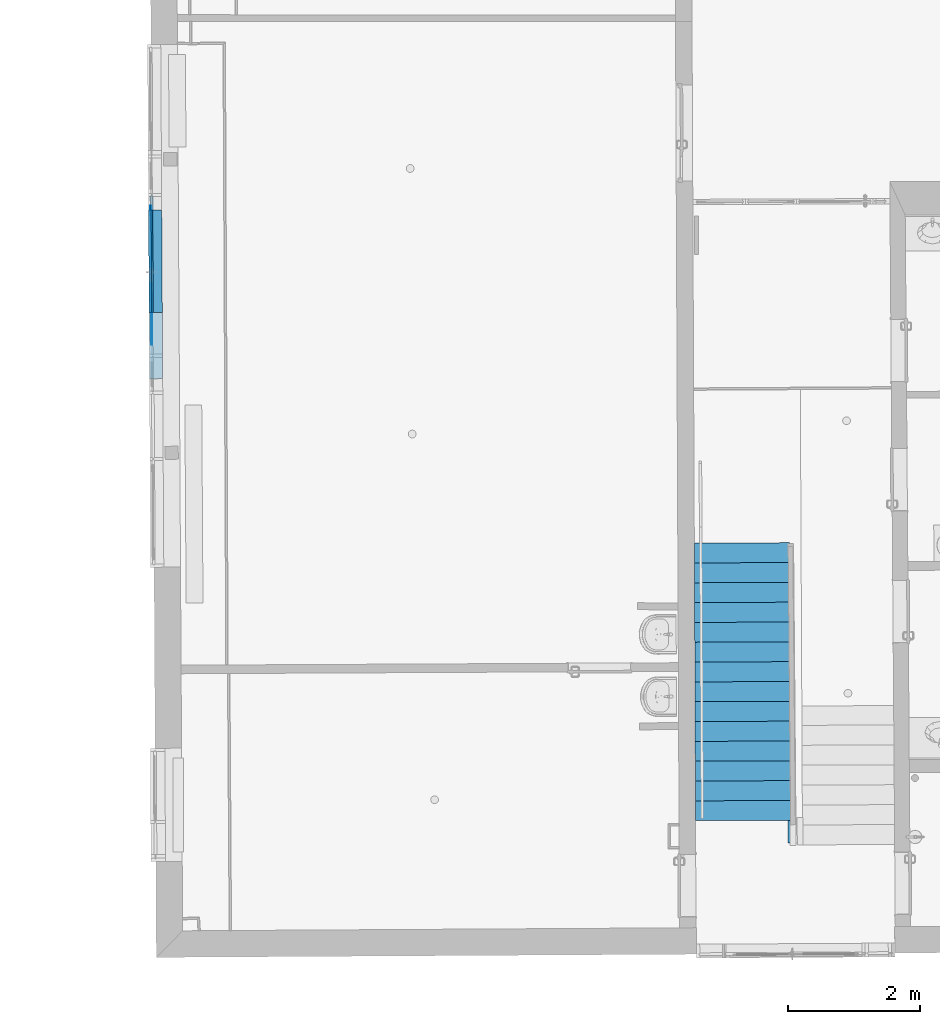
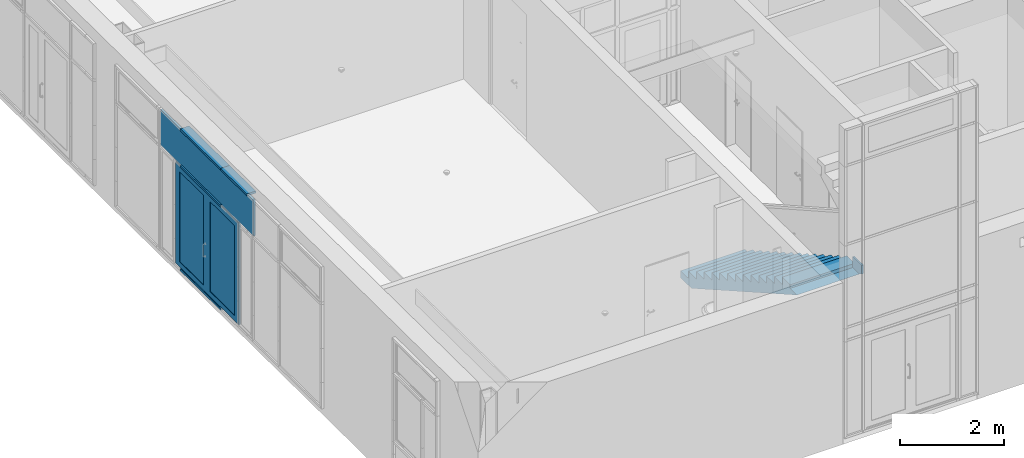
# One storey, part 122 of 196: 8 building element parts, 2 elements without a shape of their own.
"""IFC2X3 building model written with IfcOpenShell, lengths in metres."""

from ifc_helpers import new_model, entity, si_unit, converted_unit, derived_unit, money_unit, direction, frame, origin_with_axes, place, context, subcontext, project, spatial, faceted_brep, material, type_object, element, aggregate, save


model = new_model("IFC2X3")

# Units and contexts
model_context = context("Model", 3, precision=1e-05, world=origin_with_axes(), true_north=direction((0.0, 1.0)))
body_context = subcontext(model_context, "Body", "Model", "MODEL_VIEW")
ifc_project = project(units=[si_unit("LENGTHUNIT", "METRE"), si_unit("AREAUNIT", "SQUARE_METRE"), si_unit("VOLUMEUNIT", "CUBIC_METRE"), converted_unit("PLANEANGLEUNIT", "DEGREE", entity("IfcPlaneAngleMeasure", 0.0174532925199), si_unit("PLANEANGLEUNIT", "RADIAN"), dimensions=[0, 0, 0, 0, 0, 0, 0]), money_unit("EUR"), converted_unit("TIMEUNIT", "Year", entity("IfcTimeMeasure", 31556926.0), si_unit("TIMEUNIT", "SECOND"), dimensions=[0, 0, 1, 0, 0, 0, 0]), si_unit("MASSUNIT", "GRAM", prefix="KILO"), si_unit("THERMODYNAMICTEMPERATUREUNIT", "DEGREE_CELSIUS"), si_unit("LUMINOUSINTENSITYUNIT", "LUMEN"), si_unit("ENERGYUNIT", "JOULE", prefix="MEGA"), derived_unit("THERMALCONDUCTANCEUNIT", [(si_unit("POWERUNIT", "WATT"), 1), (si_unit("LENGTHUNIT", "METRE"), -1), (si_unit("THERMODYNAMICTEMPERATUREUNIT", "KELVIN"), -1)]), derived_unit("SPECIFICHEATCAPACITYUNIT", [(si_unit("ENERGYUNIT", "JOULE"), 1), (si_unit("MASSUNIT", "GRAM", prefix="KILO"), -1), (si_unit("THERMODYNAMICTEMPERATUREUNIT", "KELVIN"), -1)]), derived_unit("MASSDENSITYUNIT", [(si_unit("MASSUNIT", "GRAM", prefix="KILO"), 1), (si_unit("VOLUMEUNIT", "CUBIC_METRE"), -1)])], contexts=[model_context])

# Site, building, storey
site_placement = place(None, origin_with_axes())
site = spatial("IfcSite", under=ifc_project, at=site_placement, Name="Gelände", CompositionType="ELEMENT")
building_placement = place(site_placement, origin_with_axes())
building = spatial("IfcBuilding", under=site, at=building_placement, Name="Gebäude", CompositionType="ELEMENT")
storey_placement = place(building_placement, frame((0.0, 0.0, -3.0), z_axis=(0.0, 0.0, 1.0), x_axis=(1.0, 0.0, 0.0)))
storey = spatial("IfcBuildingStorey", under=building, at=storey_placement, Name="KELLERGESCHOSS", CompositionType="ELEMENT", Elevation=-3.0)

# Proxy, building element parts
building_element_proxy_type = type_object("IfcBuildingElementProxyType", Name="Fassadentyp", PredefinedType="NOTDEFINED")
proxy_placement = place(storey_placement, frame((-34.8766751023, 40.9954775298, 0.421025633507), z_axis=(0.0, 0.0, 1.0), x_axis=(1.0, 0.0, 0.0)))
proxy = element("IfcBuildingElementProxy", 1, at=proxy_placement, inside=storey, type_object=building_element_proxy_type, Name="Fassade-002")
ifc_material_1 = material(Name="45_Glas, Normalglas")
building_element_part_1_placement = place(proxy_placement, origin_with_axes())
building_element_part_1 = element("IfcBuildingElementPart", 2, at=building_element_part_1_placement, material=ifc_material_1, Name="45_Glas, Normalglas", context=body_context, shape_type="Brep", body=[
    faceted_brep([(0.0294276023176, -1.60742495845, 3.31499988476), (0.0282410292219, -1.40510450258, 3.31499988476), (-0.0117582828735, -1.40533909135, 3.31499988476), (-0.0105717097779, -1.60765954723, 3.31499988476), (0.0294276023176, -1.60742495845, 2.51999995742), (0.0294276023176, -1.60742495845, 2.46764333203), (0.0282410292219, -1.40510450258, 2.46764333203), (0.0261988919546, -1.0569033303, 2.46764333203), (0.0223763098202, -0.405121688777, 2.46764333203), (0.0132859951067, 1.14485161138, 2.46764333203), (0.0119435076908, 1.3737567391, 2.46764333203), (0.00858776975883, 1.94593761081, 2.46764333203), (0.00858776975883, 1.94593761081, 2.51999995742), (0.00858776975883, 1.94593761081, 3.31499988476), (0.0132859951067, 1.14485161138, 3.31499988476), (0.0223763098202, -0.405121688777, 3.31499988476), (-0.0176230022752, -0.40535627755, 3.31499988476), (-0.0267133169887, 1.14461702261, 3.31499988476), (-0.0314115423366, 1.94570302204, 3.31499988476), (-0.0314115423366, 1.94570302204, 2.51999995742), (-0.0314115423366, 1.94570302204, 2.46764333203), (-0.0280558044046, 1.37352215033, 2.46764333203), (-0.0267133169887, 1.14461702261, 2.46764333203), (-0.0176230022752, -0.40535627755, 2.46764333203), (-0.0138004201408, -1.05713791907, 2.46764333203), (-0.0117582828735, -1.40533909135, 2.46764333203), (-0.0105717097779, -1.60765954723, 2.46764333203), (-0.0105717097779, -1.60765954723, 2.51999995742)], [[[0, 1, 2, 3]], [[0, 4, 5, 6, 7, 8, 9, 10, 11, 12, 13, 14, 15, 1]], [[1, 15, 16, 2]], [[3, 2, 16, 17, 18, 19, 20, 21, 22, 23, 24, 25, 26, 27]], [[4, 0, 3, 27]], [[5, 4, 27, 26]], [[6, 5, 26, 25]], [[7, 6, 25, 24]], [[8, 7, 24, 23]], [[9, 8, 23, 22]], [[10, 9, 22, 21]], [[11, 10, 21, 20]], [[12, 11, 20, 19]], [[13, 12, 19, 18]], [[14, 13, 18, 17]], [[15, 14, 17, 16]]]),
])
ifc_material_2 = material(Name="53_Metall, Aluminium")
building_element_part_2_placement = place(proxy_placement, origin_with_axes())
building_element_part_2 = element("IfcBuildingElementPart", 3, at=building_element_part_2_placement, material=ifc_material_2, Name="53_Metall, Aluminium", context=body_context, shape_type="Brep", body=[
    faceted_brep([(0.0310521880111, -1.0318744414, 0.0499999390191), (0.0310521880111, -1.0318744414, 2.43264333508), (0.0260522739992, -1.031903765, 2.43264333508), (0.0260522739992, -1.031903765, 0.0499999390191), (0.030788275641, -0.986875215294, 0.0499999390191), (0.030788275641, -0.986875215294, 2.38764333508), (0.0257883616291, -0.986904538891, 2.38764333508), (0.0257883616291, -0.986904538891, 0.0499999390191)], [[[0, 1, 2, 3]], [[0, 4, 5, 1]], [[1, 5, 6, 2]], [[3, 2, 6, 7]], [[4, 0, 3, 7]], [[5, 4, 7, 6]]]),
    faceted_brep([(0.0170900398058, 1.34878647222, 2.43264333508), (0.0173539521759, 1.30378724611, 2.38764333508), (0.012354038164, 1.30375792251, 2.38764333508), (0.0120901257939, 1.34875714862, 2.43264333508), (0.0310521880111, -1.0318744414, 2.43264333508), (0.030788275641, -0.986875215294, 2.38764333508), (0.0257883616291, -0.986904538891, 2.38764333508), (0.0260522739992, -1.031903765, 2.43264333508)], [[[0, 1, 2, 3]], [[0, 4, 5, 1]], [[1, 5, 6, 2]], [[3, 2, 6, 7]], [[4, 0, 3, 7]], [[5, 4, 7, 6]]]),
    faceted_brep([(0.0170900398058, 1.34878647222, 0.0499999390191), (0.0173539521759, 1.30378724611, 0.0499999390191), (0.012354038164, 1.30375792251, 0.0499999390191), (0.0120901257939, 1.34875714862, 0.0499999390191), (0.0170900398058, 1.34878647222, 2.43264333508), (0.0173539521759, 1.30378724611, 2.38764333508), (0.012354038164, 1.30375792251, 2.38764333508), (0.0120901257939, 1.34875714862, 2.43264333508)], [[[0, 1, 2, 3]], [[0, 4, 5, 1]], [[1, 5, 6, 2]], [[3, 2, 6, 7]], [[4, 0, 3, 7]], [[5, 4, 7, 6]]]),
    faceted_brep([(0.0260522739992, -1.031903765, 0.0499999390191), (0.0260522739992, -1.031903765, 2.43264333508), (-0.0239468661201, -1.03219700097, 2.43264333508), (-0.0239468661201, -1.03219700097, 0.0499999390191), (0.0259349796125, -1.01190410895, 0.0499999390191), (0.0259349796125, -1.01190410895, 2.41264333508), (-0.0240641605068, -1.01219734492, 2.41264333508), (-0.0240641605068, -1.01219734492, 0.0499999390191)], [[[0, 1, 2, 3]], [[0, 4, 5, 1]], [[1, 5, 6, 2]], [[3, 2, 6, 7]], [[4, 0, 3, 7]], [[5, 4, 7, 6]]]),
    faceted_brep([(0.0120901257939, 1.34875714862, 2.43264333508), (0.0122074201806, 1.32875749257, 2.41264333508), (-0.0377917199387, 1.32846425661, 2.41264333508), (-0.0379090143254, 1.34846391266, 2.43264333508), (0.0260522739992, -1.031903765, 2.43264333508), (0.0259349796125, -1.01190410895, 2.41264333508), (-0.0240641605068, -1.01219734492, 2.41264333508), (-0.0239468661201, -1.03219700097, 2.43264333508)], [[[0, 1, 2, 3]], [[0, 4, 5, 1]], [[1, 5, 6, 2]], [[3, 2, 6, 7]], [[4, 0, 3, 7]], [[5, 4, 7, 6]]]),
    faceted_brep([(0.0120901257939, 1.34875714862, 0.0499999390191), (0.0122074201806, 1.32875749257, 0.0499999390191), (-0.0377917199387, 1.32846425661, 0.0499999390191), (-0.0379090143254, 1.34846391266, 0.0499999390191), (0.0120901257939, 1.34875714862, 2.43264333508), (0.0122074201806, 1.32875749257, 2.41264333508), (-0.0377917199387, 1.32846425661, 2.41264333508), (-0.0379090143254, 1.34846391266, 2.43264333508)], [[[0, 1, 2, 3]], [[0, 4, 5, 1]], [[1, 5, 6, 2]], [[3, 2, 6, 7]], [[4, 0, 3, 7]], [[5, 4, 7, 6]]]),
    faceted_brep([(0.0120021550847, 1.36375687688, 0.0349999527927), (0.0261402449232, -1.04690352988, 0.0349999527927), (-0.0138590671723, -1.04713811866, 0.0349999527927), (-0.0279971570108, 1.36352228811, 0.0349999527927), (0.0120901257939, 1.34875714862, 0.0499999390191), (0.0260522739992, -1.031903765, 0.0499999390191), (-0.0139470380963, -1.03213835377, 0.0499999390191), (-0.0279091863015, 1.34852255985, 0.0499999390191)], [[[0, 1, 2, 3]], [[0, 4, 5, 1]], [[1, 5, 6, 2]], [[3, 2, 6, 7]], [[4, 0, 3, 7]], [[5, 4, 7, 6]]]),
    faceted_brep([(0.0261402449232, -1.04690352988, 0.0349999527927), (0.0261402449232, -1.04690352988, 2.4476433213), (-0.0138590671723, -1.04713811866, 2.4476433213), (-0.0138590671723, -1.04713811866, 0.0349999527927), (0.0260522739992, -1.031903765, 0.0499999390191), (0.0260522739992, -1.031903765, 2.43264333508), (-0.0139470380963, -1.03213835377, 2.43264333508), (-0.0139470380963, -1.03213835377, 0.0499999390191)], [[[0, 1, 2, 3]], [[0, 4, 5, 1]], [[1, 5, 6, 2]], [[3, 2, 6, 7]], [[4, 0, 3, 7]], [[5, 4, 7, 6]]]),
    faceted_brep([(0.0261402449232, -1.04690352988, 2.4476433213), (0.0120021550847, 1.36375687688, 2.4476433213), (-0.0279971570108, 1.36352228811, 2.4476433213), (-0.0138590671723, -1.04713811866, 2.4476433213), (0.0260522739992, -1.031903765, 2.43264333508), (0.0120901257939, 1.34875714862, 2.43264333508), (-0.0279091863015, 1.34852255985, 2.43264333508), (-0.0139470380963, -1.03213835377, 2.43264333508)], [[[0, 1, 2, 3]], [[0, 4, 5, 1]], [[1, 5, 6, 2]], [[3, 2, 6, 7]], [[4, 0, 3, 7]], [[5, 4, 7, 6]]]),
    faceted_brep([(0.0120021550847, 1.36375687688, 2.4476433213), (0.0120021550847, 1.36375687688, 0.0349999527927), (-0.0279971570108, 1.36352228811, 0.0349999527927), (-0.0279971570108, 1.36352228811, 2.4476433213), (0.0120901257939, 1.34875714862, 2.43264333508), (0.0120901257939, 1.34875714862, 0.0499999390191), (-0.0279091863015, 1.34852255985, 0.0499999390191), (-0.0279091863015, 1.34852255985, 2.43264333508)], [[[0, 1, 2, 3]], [[0, 4, 5, 1]], [[1, 5, 6, 2]], [[3, 2, 6, 7]], [[4, 0, 3, 7]], [[5, 4, 7, 6]]]),
    faceted_brep([(0.0129111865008, 1.20875955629, 0.169999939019), (0.0129111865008, 1.20875955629, 2.29264333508), (-0.0370879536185, 1.20846632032, 2.29264333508), (-0.0370879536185, 1.20846632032, 0.169999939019), (0.0122074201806, 1.32875749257, 0.0499999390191), (0.0122074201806, 1.32875749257, 2.41264333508), (-0.0377917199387, 1.32846425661, 2.41264333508), (-0.0377917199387, 1.32846425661, 0.0499999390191)], [[[0, 1, 2, 3]], [[0, 4, 5, 1]], [[1, 5, 6, 2]], [[3, 2, 6, 7]], [[4, 0, 3, 7]], [[5, 4, 7, 6]]]),
    faceted_brep([(0.0190711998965, 0.158426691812, 0.0499999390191), (0.0190711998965, 0.158426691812, 2.41264333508), (-0.0309279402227, 0.158133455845, 2.41264333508), (-0.0309279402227, 0.158133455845, 0.0499999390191), (0.0183674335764, 0.278424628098, 0.169999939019), (0.0183674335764, 0.278424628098, 2.29264333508), (-0.0316317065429, 0.278131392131, 2.29264333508), (-0.0316317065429, 0.278131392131, 0.169999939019)], [[[0, 1, 2, 3]], [[0, 4, 5, 1]], [[1, 5, 6, 2]], [[3, 2, 6, 7]], [[4, 0, 3, 7]], [[5, 4, 7, 6]]]),
    faceted_brep([(0.0190711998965, 0.158426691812, 0.0499999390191), (0.0183674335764, 0.278424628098, 0.169999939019), (-0.0316317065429, 0.278131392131, 0.169999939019), (-0.0309279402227, 0.158133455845, 0.0499999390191), (0.0122074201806, 1.32875749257, 0.0499999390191), (0.0129111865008, 1.20875955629, 0.169999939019), (-0.0370879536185, 1.20846632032, 0.169999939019), (-0.0377917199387, 1.32846425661, 0.0499999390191)], [[[0, 1, 2, 3]], [[0, 4, 5, 1]], [[1, 5, 6, 2]], [[3, 2, 6, 7]], [[4, 0, 3, 7]], [[5, 4, 7, 6]]]),
    faceted_brep([(0.0122074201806, 1.32875749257, 2.41264333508), (0.0129111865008, 1.20875955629, 2.29264333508), (-0.0370879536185, 1.20846632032, 2.29264333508), (-0.0377917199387, 1.32846425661, 2.41264333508), (0.0190711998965, 0.158426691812, 2.41264333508), (0.0183674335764, 0.278424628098, 2.29264333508), (-0.0316317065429, 0.278131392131, 2.29264333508), (-0.0309279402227, 0.158133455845, 2.41264333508)], [[[0, 1, 2, 3]], [[0, 4, 5, 1]], [[1, 5, 6, 2]], [[3, 2, 6, 7]], [[4, 0, 3, 7]], [[5, 4, 7, 6]]]),
    faceted_brep([(0.0197749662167, 0.0384287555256, 0.169999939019), (0.0197749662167, 0.0384287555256, 2.29264333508), (-0.0302241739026, 0.0381355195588, 2.29264333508), (-0.0302241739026, 0.0381355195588, 0.169999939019), (0.0190711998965, 0.158426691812, 0.0499999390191), (0.0190711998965, 0.158426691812, 2.41264333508), (-0.0309279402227, 0.158133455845, 2.41264333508), (-0.0309279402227, 0.158133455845, 0.0499999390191)], [[[0, 1, 2, 3]], [[0, 4, 5, 1]], [[1, 5, 6, 2]], [[3, 2, 6, 7]], [[4, 0, 3, 7]], [[5, 4, 7, 6]]]),
    faceted_brep([(0.0259349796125, -1.01190410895, 0.0499999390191), (0.0259349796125, -1.01190410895, 2.41264333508), (-0.0240641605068, -1.01219734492, 2.41264333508), (-0.0240641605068, -1.01219734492, 0.0499999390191), (0.0252312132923, -0.891906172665, 0.169999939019), (0.0252312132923, -0.891906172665, 2.29264333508), (-0.024767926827, -0.892199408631, 2.29264333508), (-0.024767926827, -0.892199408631, 0.169999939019)], [[[0, 1, 2, 3]], [[0, 4, 5, 1]], [[1, 5, 6, 2]], [[3, 2, 6, 7]], [[4, 0, 3, 7]], [[5, 4, 7, 6]]]),
    faceted_brep([(0.0259349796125, -1.01190410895, 0.0499999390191), (0.0252312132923, -0.891906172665, 0.169999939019), (-0.024767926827, -0.892199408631, 0.169999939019), (-0.0240641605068, -1.01219734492, 0.0499999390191), (0.0190711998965, 0.158426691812, 0.0499999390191), (0.0197749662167, 0.0384287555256, 0.169999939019), (-0.0302241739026, 0.0381355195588, 0.169999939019), (-0.0309279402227, 0.158133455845, 0.0499999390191)], [[[0, 1, 2, 3]], [[0, 4, 5, 1]], [[1, 5, 6, 2]], [[3, 2, 6, 7]], [[4, 0, 3, 7]], [[5, 4, 7, 6]]]),
    faceted_brep([(0.0190711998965, 0.158426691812, 2.41264333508), (0.0197749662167, 0.0384287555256, 2.29264333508), (-0.0302241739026, 0.0381355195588, 2.29264333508), (-0.0309279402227, 0.158133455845, 2.41264333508), (0.0259349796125, -1.01190410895, 2.41264333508), (0.0252312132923, -0.891906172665, 2.29264333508), (-0.024767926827, -0.892199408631, 2.29264333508), (-0.0240641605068, -1.01219734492, 2.41264333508)], [[[0, 1, 2, 3]], [[0, 4, 5, 1]], [[1, 5, 6, 2]], [[3, 2, 6, 7]], [[4, 0, 3, 7]], [[5, 4, 7, 6]]]),
])
building_element_part_3_placement = place(proxy_placement, origin_with_axes())
building_element_part_3 = element("IfcBuildingElementPart", 4, at=building_element_part_3_placement, material=ifc_material_1, Name="45_Glas, Normalglas", context=body_context, shape_type="Brep", body=[
    faceted_brep([(-0.0110884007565, 1.20861880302, 0.169999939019), (-0.00563215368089, 0.278283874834, 0.169999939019), (-0.0216318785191, 0.278190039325, 0.169999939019), (-0.0270881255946, 1.20852496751, 0.169999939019), (-0.0110884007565, 1.20861880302, 2.29264333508), (-0.00563215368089, 0.278283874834, 2.29264333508), (-0.0216318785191, 0.278190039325, 2.29264333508), (-0.0270881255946, 1.20852496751, 2.29264333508)], [[[0, 1, 2, 3]], [[0, 4, 5, 1]], [[1, 5, 6, 2]], [[3, 2, 6, 7]], [[4, 0, 3, 7]], [[5, 4, 7, 6]]]),
    faceted_brep([(-0.00422462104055, 0.0382880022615, 0.169999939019), (0.00123162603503, -0.892046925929, 0.169999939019), (-0.0147680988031, -0.892140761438, 0.169999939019), (-0.0202243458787, 0.0381941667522, 0.169999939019), (-0.00422462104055, 0.0382880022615, 2.29264333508), (0.00123162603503, -0.892046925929, 2.29264333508), (-0.0147680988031, -0.892140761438, 2.29264333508), (-0.0202243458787, 0.0381941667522, 2.29264333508)], [[[0, 1, 2, 3]], [[0, 4, 5, 1]], [[1, 5, 6, 2]], [[3, 2, 6, 7]], [[4, 0, 3, 7]], [[5, 4, 7, 6]]]),
])
building_element_part_4_placement = place(proxy_placement, origin_with_axes())
building_element_part_4 = element("IfcBuildingElementPart", 5, at=building_element_part_4_placement, material=ifc_material_2, Name="53_Metall, Aluminium", context=body_context, shape_type="Brep", body=[
    faceted_brep([(0.0123764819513, -0.405180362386, 0.034999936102), (-0.00762317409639, -0.405297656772, 0.034999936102), (-0.00762317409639, -0.405297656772, 0.049999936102), (-0.0476224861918, -0.405532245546, 0.049999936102), (-0.0476224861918, -0.405532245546, -6.38979709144e-08), (0.152374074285, -0.404359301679, -6.38979709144e-08), (0.152374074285, -0.404359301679, 0.049999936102), (0.0123764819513, -0.405180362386, 0.049999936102), (0.00328616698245, 1.14479298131, 0.034999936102), (-0.0167134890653, 1.14467568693, 0.034999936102), (-0.0167134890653, 1.14467568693, 0.049999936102), (-0.0567128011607, 1.14444109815, 0.049999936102), (-0.0567128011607, 1.14444109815, -6.38979709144e-08), (0.143283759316, 1.14561404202, -6.38979709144e-08), (0.143283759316, 1.14561404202, 0.049999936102), (0.00328616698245, 1.14479298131, 0.049999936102)], [[[0, 1, 2, 3, 4, 5, 6, 7]], [[1, 0, 8, 9]], [[10, 2, 1, 9]], [[2, 10, 11, 3]], [[12, 4, 3, 11]], [[13, 5, 4, 12]], [[14, 6, 5, 13]], [[15, 7, 6, 14]], [[0, 7, 15, 8]], [[8, 15, 14, 13, 12, 11, 10, 9]]]),
])
building_element_part_5_placement = place(proxy_placement, origin_with_axes())
building_element_part_5 = element("IfcBuildingElementPart", 6, at=building_element_part_5_placement, material=ifc_material_2, Name="53_Metall, Aluminium", context=body_context, shape_type="Brep", body=[
    faceted_brep([(0.0123764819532, -0.405180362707, 2.44764333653), (0.0123764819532, -0.405180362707, 2.43264333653), (0.152374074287, -0.404359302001, 2.43264333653), (0.152374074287, -0.404359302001, 2.48264333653), (0.0123764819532, -0.405180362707, 2.48264333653), (0.0123764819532, -0.405180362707, 2.46764333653), (-0.0076231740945, -0.405297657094, 2.46764333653), (-0.0076231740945, -0.405297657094, 2.48264333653), (-0.0476224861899, -0.405532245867, 2.48264333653), (-0.0476224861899, -0.405532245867, 2.43264333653), (-0.0076231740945, -0.405297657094, 2.43264333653), (-0.0076231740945, -0.405297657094, 2.44764333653), (0.00328616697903, 1.14479298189, 2.44764333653), (0.00328616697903, 1.14479298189, 2.43264333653), (0.143283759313, 1.1456140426, 2.43264333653), (0.143283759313, 1.1456140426, 2.48264333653), (0.00328616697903, 1.14479298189, 2.48264333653), (0.00328616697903, 1.14479298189, 2.46764333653), (-0.0167134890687, 1.14467568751, 2.46764333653), (-0.0167134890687, 1.14467568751, 2.48264333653), (-0.0567128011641, 1.14444109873, 2.48264333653), (-0.0567128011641, 1.14444109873, 2.43264333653), (-0.0167134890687, 1.14467568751, 2.43264333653), (-0.0167134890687, 1.14467568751, 2.44764333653)], [[[0, 1, 2, 3, 4, 5, 6, 7, 8, 9, 10, 11]], [[1, 0, 12, 13]], [[1, 13, 14, 2]], [[3, 2, 14, 15]], [[4, 3, 15, 16]], [[4, 16, 17, 5]], [[5, 17, 18, 6]], [[7, 6, 18, 19]], [[19, 20, 8, 7]], [[9, 8, 20, 21]], [[22, 10, 9, 21]], [[11, 10, 22, 23]], [[0, 11, 23, 12]], [[23, 22, 21, 20, 19, 18, 17, 16, 15, 14, 13, 12]]]),
])
building_element_part_6_placement = place(proxy_placement, origin_with_axes())
building_element_part_6 = element("IfcBuildingElementPart", 7, at=building_element_part_6_placement, material=ifc_material_2, Name="53_Metall, Aluminium", context=body_context, shape_type="Brep", body=[
    faceted_brep([(0.0182412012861, -1.40516316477, 3.314999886), (0.0182412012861, -1.40516316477, 3.299999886), (0.15823879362, -1.40434210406, 3.299999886), (0.15823879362, -1.40434210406, 3.349999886), (-0.0417577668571, -1.40551504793, 3.349999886), (-0.0417577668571, -1.40551504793, 3.299999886), (-0.00175845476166, -1.40528045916, 3.299999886), (-0.00175845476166, -1.40528045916, 3.314999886), (0.0123764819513, -0.405180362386, 3.314999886), (0.0123764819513, -0.405180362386, 3.299999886), (0.152374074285, -0.404359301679, 3.299999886), (0.152374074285, -0.404359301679, 3.349999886), (-0.0476224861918, -0.405532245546, 3.349999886), (-0.0476224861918, -0.405532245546, 3.299999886), (-0.0076231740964, -0.405297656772, 3.299999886), (-0.0076231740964, -0.405297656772, 3.314999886)], [[[0, 1, 2, 3, 4, 5, 6, 7]], [[0, 8, 9, 1]], [[9, 10, 2, 1]], [[10, 11, 3, 2]], [[11, 12, 4, 3]], [[12, 13, 5, 4]], [[6, 5, 13, 14]], [[14, 15, 7, 6]], [[7, 15, 8, 0]], [[8, 15, 14, 13, 12, 11, 10, 9]]]),
])
building_element_part_7_placement = place(proxy_placement, origin_with_axes())
building_element_part_7 = element("IfcBuildingElementPart", 8, at=building_element_part_7_placement, material=ifc_material_2, Name="53_Metall, Aluminium", context=body_context, shape_type="Brep", body=[
    faceted_brep([(0.0123764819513, -0.405180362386, 3.314999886), (0.0123764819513, -0.405180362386, 3.299999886), (0.152374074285, -0.404359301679, 3.299999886), (0.152374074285, -0.404359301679, 3.349999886), (-0.0476224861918, -0.405532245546, 3.349999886), (-0.0476224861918, -0.405532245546, 3.299999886), (-0.00762317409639, -0.405297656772, 3.299999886), (-0.00762317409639, -0.405297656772, 3.314999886), (0.00328616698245, 1.14479298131, 3.314999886), (0.00328616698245, 1.14479298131, 3.299999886), (0.143283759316, 1.14561404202, 3.299999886), (0.143283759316, 1.14561404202, 3.349999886), (-0.0567128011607, 1.14444109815, 3.349999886), (-0.0567128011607, 1.14444109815, 3.299999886), (-0.0167134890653, 1.14467568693, 3.299999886), (-0.0167134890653, 1.14467568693, 3.314999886)], [[[0, 1, 2, 3, 4, 5, 6, 7]], [[0, 8, 9, 1]], [[9, 10, 2, 1]], [[10, 11, 3, 2]], [[11, 12, 4, 3]], [[12, 13, 5, 4]], [[6, 5, 13, 14]], [[14, 15, 7, 6]], [[7, 15, 8, 0]], [[8, 15, 14, 13, 12, 11, 10, 9]]]),
])
aggregate(proxy, [building_element_part_1, building_element_part_2, building_element_part_3, building_element_part_4, building_element_part_5, building_element_part_6, building_element_part_7])

# Stair, building element part
stair_placement = place(storey_placement, frame((-26.6802757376, 37.1053459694, 0.415540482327), z_axis=(0.0, 0.0, 1.0), x_axis=(1.0, 0.0, 0.0)))
stair = element("IfcStair", 9, at=stair_placement, inside=storey, Name="Treppe-003", ShapeType="NOTDEFINED")
ifc_material_3 = material(Name="05_ALLGEMEIN - TRAGENDE BAUTEILE")
building_element_part_8_placement = place(stair_placement, origin_with_axes())
building_element_part_8 = element("IfcBuildingElementPart", 10, at=building_element_part_8_placement, material=ifc_material_3, Name="05_ALLGEMEIN - TRAGENDE BAUTEILE", context=body_context, shape_type="Brep", body=[
    faceted_brep([(0.00182348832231, -0.413995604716, 0.00445951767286), (1.44180953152, -0.407652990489, 0.00445951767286), (1.44218675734, -0.493295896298, 0.0529200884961), (0.00220072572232, -0.499638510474, 0.0529200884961), (1.440250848, -0.0537795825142, 0.00445951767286), (-1.2469907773e-08, 0.0, 0.00445951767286), (1.43998603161, 0.00634261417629, 0.00445951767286), (1.44003059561, -0.00377490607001, 0.00445951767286), (1.40726547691, -0.00439006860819, 0.00445951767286), (1.40820405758, -0.0543812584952, 0.00445951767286), (1.43998603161, 0.00634261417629, 0.169630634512), (1.44130646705, -0.293440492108, 0.169630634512), (1.44130646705, -0.293440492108, 0.339261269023), (1.44262690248, -0.593223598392, 0.339261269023), (1.44262690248, -0.593223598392, 0.508891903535), (1.44394733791, -0.893006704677, 0.508891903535), (1.44394733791, -0.893006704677, 0.678522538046), (1.44526777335, -1.19278981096, 0.678522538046), (1.44526777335, -1.19278981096, 0.848153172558), (1.44658820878, -1.49257291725, 0.848153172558), (1.44658820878, -1.49257291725, 1.01778380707), (1.44790864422, -1.79235602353, 1.01778380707), (1.44790864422, -1.79235602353, 1.18741444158), (1.44922907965, -2.09213912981, 1.18741444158), (1.44922907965, -2.09213912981, 1.35704507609), (1.45054951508, -2.3919222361, 1.35704507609), (1.45054951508, -2.3919222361, 1.5266757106), (1.45186995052, -2.69170534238, 1.5266757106), (1.45186995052, -2.69170534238, 1.69630634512), (1.45319038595, -2.99148844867, 1.69630634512), (1.45319038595, -2.99148844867, 1.86593697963), (1.45451082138, -3.29127155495, 1.86593697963), (1.45451082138, -3.29127155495, 2.03556761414), (1.45583125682, -3.59105466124, 2.03556761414), (1.45583125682, -3.59105466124, 2.20519824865), (1.45715169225, -3.89083776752, 2.20519824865), (1.45715169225, -3.89083776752, 2.37482888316), (1.45847212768, -4.1906208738, 2.37482888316), (1.45847212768, -4.1906208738, 2.54445951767), (1.45997423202, -4.53164891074, 2.54445951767), (1.45997423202, -4.53164891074, 2.33800010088), (1.45847212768, -4.1906208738, 2.14503124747), (1.45803198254, -4.09069317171, 2.08848770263), (1.45759183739, -3.99076546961, 2.0319441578), (1.45715169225, -3.89083776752, 1.97540061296), (1.4567115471, -3.79091006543, 1.91885706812), (1.45627140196, -3.69098236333, 1.86231352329), (1.45583125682, -3.59105466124, 1.80576997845), (1.45539111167, -3.49112695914, 1.74922643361), (1.45495096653, -3.39119925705, 1.69268288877), (1.45451082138, -3.29127155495, 1.63613934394), (1.45407067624, -3.19134385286, 1.5795957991), (1.45363053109, -3.09141615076, 1.52305225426), (1.45319038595, -2.99148844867, 1.46650870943), (1.4527502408, -2.89156074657, 1.40996516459), (1.45231009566, -2.79163304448, 1.35342161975), (1.45186995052, -2.69170534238, 1.29687807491), (1.45142980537, -2.59177764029, 1.24033453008), (1.45098966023, -2.49184993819, 1.18379098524), (1.45054951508, -2.3919222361, 1.1272474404), (1.45010936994, -2.291994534, 1.07070389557), (1.44966922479, -2.19206683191, 1.01416035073), (1.44922907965, -2.09213912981, 0.957616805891), (1.4487889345, -1.99221142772, 0.901073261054), (1.44834878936, -1.89228372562, 0.844529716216), (1.44790864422, -1.79235602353, 0.787986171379), (1.44746849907, -1.69242832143, 0.731442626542), (1.44702835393, -1.59250061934, 0.674899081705), (1.44658820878, -1.49257291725, 0.618355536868), (1.44614806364, -1.39264521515, 0.561811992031), (1.44570791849, -1.29271751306, 0.505268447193), (1.44526777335, -1.19278981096, 0.448724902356), (1.4448276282, -1.09286210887, 0.392181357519), (1.44438748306, -0.992934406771, 0.335637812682), (1.44394733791, -0.893006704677, 0.279094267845), (1.44350719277, -0.793079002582, 0.222550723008), (1.44306704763, -0.693151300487, 0.16600717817), (1.44262690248, -0.593223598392, 0.109463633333), (1.440250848, -0.0537795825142, 0.00221829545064), (1.44003059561, -0.00377490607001, 0.00221829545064), (0.00264087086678, -0.599566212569, 0.109463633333), (0.00308101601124, -0.699493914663, 0.16600717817), (0.00352116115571, -0.799421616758, 0.222550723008), (0.00396130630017, -0.899349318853, 0.279094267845), (0.00440145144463, -0.999277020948, 0.335637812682), (0.0048415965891, -1.09920472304, 0.392181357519), (0.00528174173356, -1.19913242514, 0.448724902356), (0.00572188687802, -1.29906012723, 0.505268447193), (0.00616203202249, -1.39898782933, 0.561811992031), (0.00660217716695, -1.49891553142, 0.618355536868), (0.00704232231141, -1.59884323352, 0.674899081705), (0.00748246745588, -1.69877093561, 0.731442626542), (0.00792261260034, -1.79869863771, 0.787986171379), (0.00836275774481, -1.8986263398, 0.844529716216), (0.00880290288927, -1.9985540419, 0.901073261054), (0.00924304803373, -2.09848174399, 0.957616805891), (0.00968319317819, -2.19840944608, 1.01416035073), (0.0101233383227, -2.29833714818, 1.07070389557), (0.0105634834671, -2.39826485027, 1.1272474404), (0.0110036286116, -2.49819255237, 1.18379098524), (0.011443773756, -2.59812025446, 1.24033453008), (0.0118839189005, -2.69804795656, 1.29687807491), (0.012324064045, -2.79797565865, 1.35342161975), (0.0127642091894, -2.89790336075, 1.40996516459), (0.0132043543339, -2.99783106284, 1.46650870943), (0.0136444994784, -3.09775876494, 1.52305225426), (0.0140846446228, -3.19768646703, 1.5795957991), (0.0145247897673, -3.29761416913, 1.63613934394), (0.0149649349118, -3.39754187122, 1.69268288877), (0.0154050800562, -3.49746957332, 1.74922643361), (0.0158452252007, -3.59739727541, 1.80576997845), (0.0162853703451, -3.69732497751, 1.86231352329), (0.0167255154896, -3.7972526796, 1.91885706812), (0.0171656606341, -3.8971803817, 1.97540061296), (0.0176058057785, -3.99710808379, 2.0319441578), (0.018045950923, -4.09703578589, 2.08848770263), (0.0184860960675, -4.19696348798, 2.14503124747), (0.0196350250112, -4.45780887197, 2.29262918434), (0.0184860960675, -4.19696348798, 2.29262918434), (0.0184860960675, -4.19696348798, 2.37482888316), (0.0171656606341, -3.8971803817, 2.37482888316), (0.0171656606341, -3.8971803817, 2.20519824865), (0.0158452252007, -3.59739727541, 2.20519824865), (0.0158452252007, -3.59739727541, 2.03556761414), (0.0145247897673, -3.29761416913, 2.03556761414), (0.0145247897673, -3.29761416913, 1.86593697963), (0.0132043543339, -2.99783106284, 1.86593697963), (0.0132043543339, -2.99783106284, 1.69630634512), (0.0118839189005, -2.69804795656, 1.69630634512), (0.0118839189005, -2.69804795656, 1.5266757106), (0.0105634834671, -2.39826485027, 1.5266757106), (0.0105634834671, -2.39826485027, 1.35704507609), (0.00924304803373, -2.09848174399, 1.35704507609), (0.00924304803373, -2.09848174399, 1.18741444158), (0.00792261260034, -1.79869863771, 1.18741444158), (0.00792261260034, -1.79869863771, 1.01778380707), (0.00660217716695, -1.49891553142, 1.01778380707), (0.00660217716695, -1.49891553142, 0.848153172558), (0.00528174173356, -1.19913242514, 0.848153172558), (0.00528174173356, -1.19913242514, 0.678522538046), (0.00396130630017, -0.899349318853, 0.678522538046), (0.00396130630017, -0.899349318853, 0.508891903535), (0.00264087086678, -0.599566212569, 0.508891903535), (0.00264087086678, -0.599566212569, 0.339261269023), (0.00132043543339, -0.299783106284, 0.339261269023), (0.00132043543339, -0.299783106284, 0.169630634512), (0.0, 0.0, 0.169630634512), (1.40726547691, -0.00439006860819, 0.00221829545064), (1.40820405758, -0.0543812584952, 0.00221829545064), (1.41847251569, -4.19079705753, 2.37482888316), (1.41847251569, -4.19079705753, 2.54445951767), (1.41997510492, -4.53193518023, 2.54445951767), (1.41997510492, -4.53193518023, 2.33806239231), (1.41962144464, -4.45164244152, 2.29262918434), (1.41847251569, -4.19079705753, 2.29262918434)], [[[0, 1, 2, 3]], [[4, 1, 0, 5, 6, 7, 8, 9]], [[7, 6, 10, 11, 12, 13, 14, 15, 16, 17, 18, 19, 20, 21, 22, 23, 24, 25, 26, 27, 28, 29, 30, 31, 32, 33, 34, 35, 36, 37, 38, 39, 40, 41, 42, 43, 44, 45, 46, 47, 48, 49, 50, 51, 52, 53, 54, 55, 56, 57, 58, 59, 60, 61, 62, 63, 64, 65, 66, 67, 68, 69, 70, 71, 72, 73, 74, 75, 76, 77, 2, 1, 4, 78, 79]], [[3, 2, 77, 80]], [[5, 0, 3, 80, 81, 82, 83, 84, 85, 86, 87, 88, 89, 90, 91, 92, 93, 94, 95, 96, 97, 98, 99, 100, 101, 102, 103, 104, 105, 106, 107, 108, 109, 110, 111, 112, 113, 114, 115, 116, 117, 118, 119, 120, 121, 122, 123, 124, 125, 126, 127, 128, 129, 130, 131, 132, 133, 134, 135, 136, 137, 138, 139, 140, 141, 142, 143, 144, 145, 146]], [[6, 5, 146, 10]], [[7, 79, 147, 8]], [[147, 148, 9, 8]], [[78, 4, 9, 148]], [[10, 146, 145, 11]], [[144, 12, 11, 145]], [[12, 144, 143, 13]], [[142, 14, 13, 143]], [[14, 142, 141, 15]], [[140, 16, 15, 141]], [[16, 140, 139, 17]], [[138, 18, 17, 139]], [[18, 138, 137, 19]], [[136, 20, 19, 137]], [[20, 136, 135, 21]], [[134, 22, 21, 135]], [[22, 134, 133, 23]], [[132, 24, 23, 133]], [[24, 132, 131, 25]], [[130, 26, 25, 131]], [[26, 130, 129, 27]], [[128, 28, 27, 129]], [[28, 128, 127, 29]], [[126, 30, 29, 127]], [[30, 126, 125, 31]], [[124, 32, 31, 125]], [[32, 124, 123, 33]], [[122, 34, 33, 123]], [[34, 122, 121, 35]], [[120, 36, 35, 121]], [[120, 119, 149, 37, 36]], [[37, 149, 150, 38]], [[38, 150, 151, 39]], [[39, 151, 152, 40]], [[152, 153, 117, 116, 115, 42, 41, 40]], [[114, 43, 42, 115]], [[113, 44, 43, 114]], [[112, 45, 44, 113]], [[111, 46, 45, 112]], [[110, 47, 46, 111]], [[109, 48, 47, 110]], [[108, 49, 48, 109]], [[107, 50, 49, 108]], [[106, 51, 50, 107]], [[105, 52, 51, 106]], [[104, 53, 52, 105]], [[103, 54, 53, 104]], [[102, 55, 54, 103]], [[101, 56, 55, 102]], [[100, 57, 56, 101]], [[99, 58, 57, 100]], [[98, 59, 58, 99]], [[97, 60, 59, 98]], [[96, 61, 60, 97]], [[95, 62, 61, 96]], [[94, 63, 62, 95]], [[93, 64, 63, 94]], [[92, 65, 64, 93]], [[91, 66, 65, 92]], [[90, 67, 66, 91]], [[89, 68, 67, 90]], [[88, 69, 68, 89]], [[87, 70, 69, 88]], [[86, 71, 70, 87]], [[85, 72, 71, 86]], [[84, 73, 72, 85]], [[83, 74, 73, 84]], [[82, 75, 74, 83]], [[81, 76, 75, 82]], [[80, 77, 76, 81]], [[79, 78, 148, 147]], [[118, 117, 153, 154]], [[154, 149, 119, 118]], [[150, 149, 154, 153, 152, 151]]]),
])
aggregate(stair, [building_element_part_8])

save(model, "model.ifc")
